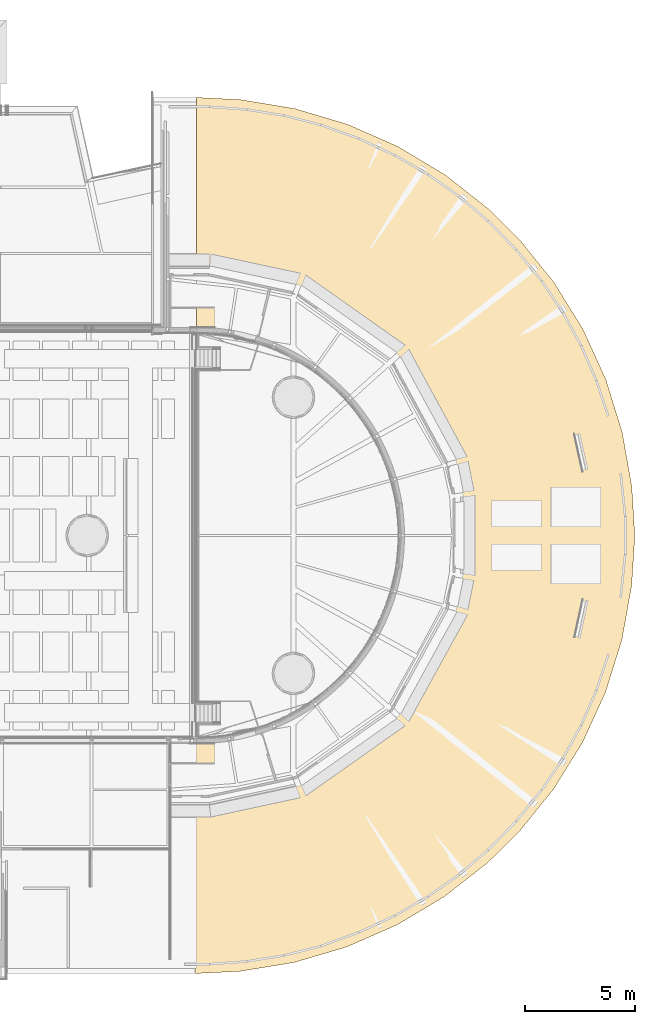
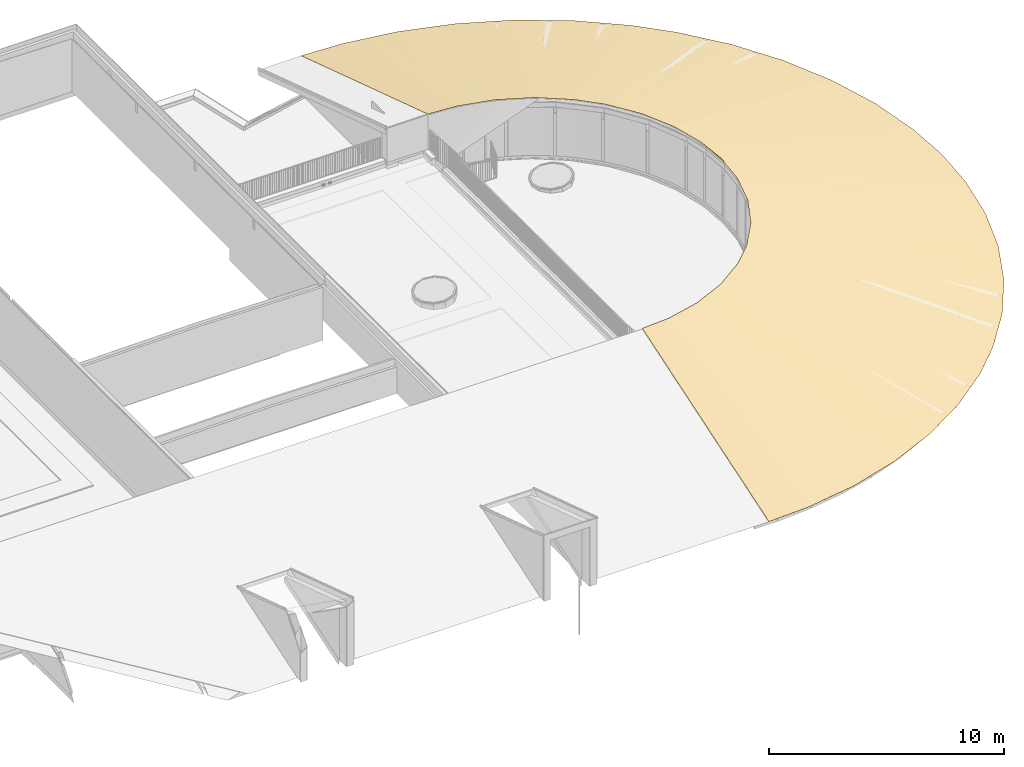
# One storey, part 65 of 66: 1 covering.
"""IFC2X3 building model written with IfcOpenShell, lengths in millimetres."""

from ifc_helpers import new_model, entity, si_unit, converted_unit, derived_unit, direction, frame, origin, place, context, subcontext, project, spatial, faceted_brep, material, layer, layer_set, layer_usage, type_object, element, save


model = new_model("IFC2X3")

# Units and contexts
model_context = context("Model", 3, precision=0.01, world=origin(), true_north=direction((6.12303176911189e-17, 1.0)))
body_context = subcontext(model_context, "Body", "Model", "MODEL_VIEW")
ifc_project = project(units=[si_unit("LENGTHUNIT", "METRE", prefix="MILLI"), si_unit("AREAUNIT", "SQUARE_METRE"), si_unit("VOLUMEUNIT", "CUBIC_METRE"), converted_unit("PLANEANGLEUNIT", "DEGREE", entity("IfcRatioMeasure", 0.0174532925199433), si_unit("PLANEANGLEUNIT", "RADIAN"), dimensions=[0, 0, 0, 0, 0, 0, 0]), si_unit("MASSUNIT", "GRAM", prefix="KILO"), derived_unit("MASSDENSITYUNIT", [(si_unit("MASSUNIT", "GRAM", prefix="KILO"), 1), (si_unit("LENGTHUNIT", "METRE"), -3)]), derived_unit("MOMENTOFINERTIAUNIT", [(si_unit("LENGTHUNIT", "METRE"), 4)]), si_unit("TIMEUNIT", "SECOND"), si_unit("FREQUENCYUNIT", "HERTZ"), si_unit("THERMODYNAMICTEMPERATUREUNIT", "DEGREE_CELSIUS"), derived_unit("THERMALTRANSMITTANCEUNIT", [(si_unit("MASSUNIT", "GRAM", prefix="KILO"), 1), (si_unit("THERMODYNAMICTEMPERATUREUNIT", "KELVIN"), -1), (si_unit("TIMEUNIT", "SECOND"), -3)]), derived_unit("VOLUMETRICFLOWRATEUNIT", [(si_unit("LENGTHUNIT", "METRE"), 3), (si_unit("TIMEUNIT", "SECOND"), -1)]), si_unit("ELECTRICCURRENTUNIT", "AMPERE"), si_unit("ELECTRICVOLTAGEUNIT", "VOLT"), si_unit("POWERUNIT", "WATT"), si_unit("FORCEUNIT", "NEWTON", prefix="KILO"), si_unit("ILLUMINANCEUNIT", "LUX"), si_unit("LUMINOUSFLUXUNIT", "LUMEN"), si_unit("LUMINOUSINTENSITYUNIT", "CANDELA"), derived_unit("USERDEFINED", [(si_unit("MASSUNIT", "GRAM", prefix="KILO"), -1), (si_unit("LENGTHUNIT", "METRE"), -2), (si_unit("TIMEUNIT", "SECOND"), 3), (si_unit("LUMINOUSFLUXUNIT", "LUMEN"), 1)]), derived_unit("LINEARVELOCITYUNIT", [(si_unit("LENGTHUNIT", "METRE"), 1), (si_unit("TIMEUNIT", "SECOND"), -1)]), si_unit("PRESSUREUNIT", "PASCAL"), derived_unit("USERDEFINED", [(si_unit("LENGTHUNIT", "METRE"), -2), (si_unit("MASSUNIT", "GRAM", prefix="KILO"), 1), (si_unit("TIMEUNIT", "SECOND"), -2)]), derived_unit("LINEARFORCEUNIT", [(si_unit("MASSUNIT", "GRAM", prefix="KILO"), 1), (si_unit("LENGTHUNIT", "METRE"), 1), (si_unit("TIMEUNIT", "SECOND"), -2), (si_unit("LENGTHUNIT", "METRE"), -1)]), derived_unit("PLANARFORCEUNIT", [(si_unit("MASSUNIT", "GRAM", prefix="KILO"), 1), (si_unit("LENGTHUNIT", "METRE"), 1), (si_unit("TIMEUNIT", "SECOND"), -2), (si_unit("LENGTHUNIT", "METRE"), -2)])], contexts=[model_context])

# Site, building, storey
site_placement = place(None, origin())
site = spatial("IfcSite", under=ifc_project, at=site_placement, Name="Default", CompositionType="ELEMENT")
building_placement = place(site_placement, origin())
building = spatial("IfcBuilding", under=site, at=building_placement, Name="-", CompositionType="ELEMENT")
storey_placement = place(building_placement, frame((0.0, 0.0, 3070.0)))
storey = spatial("IfcBuildingStorey", under=building, at=storey_placement, Name="01 eerste verdieping", CompositionType="ELEMENT", Elevation=3070.00000000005)

# Covering
ifc_material = material(Name="AL_Aluminium zwart")
ifc_layer = layer(ifc_material, 1.0)
ifc_layer_set = layer_set([ifc_layer], Name="Basic Roof:NLRS_47_Felsdak zink")
ifc_layer_usage = layer_usage(ifc_layer_set, "AXIS3", "NEGATIVE", 0.0)
covering_type = type_object("IfcCoveringType", Name="Basic Roof:NLRS_47_Felsdak zink", PredefinedType="NOTDEFINED")
covering_placement = place(storey_placement, frame((50601.744261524, -305.488649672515, 71.9973772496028)))
element("IfcCovering", 1, at=covering_placement, inside=storey, type_object=covering_type, material=ifc_layer_usage, Name="Basic Roof:NLRS_47_Felsdak zink", ObjectType="Basic Roof:NLRS_47_Felsdak zink", PredefinedType="NOTDEFINED", context=body_context, shape_type="Brep", body=[
    faceted_brep([(44.3025453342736, 39841.5483719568, 1.5952722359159), (44.3025453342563, 33858.2150343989, 1945.69812180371), (44.3025453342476, 29071.5483640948, 3500.98040066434), (44.3025453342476, 29071.5483640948, 3502.03186288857), (44.302545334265, 35054.8817019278, 1557.92901416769), (44.3025453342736, 39841.5483719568, 2.64673446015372), (1.59527223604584, 10771.6504687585, 3502.03186288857), (1.59527223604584, 10771.6504687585, 3500.98040066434), (1.59527223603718, 4788.28554465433, 1556.88040213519), (1.59527223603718, 1.59527223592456, 1.59527223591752), (1.59527223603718, 1.59527223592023, 2.64673446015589), (1.59527223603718, 5984.95826462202, 1946.7526789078), (719.228547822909, 29021.5288120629, 3502.03186288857), (286.334497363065, 29053.6110942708, 3502.03186288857), (286.334497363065, 29053.6110942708, 3500.98040066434), (719.228547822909, 29021.5288120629, 3500.98040066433), (1056.69154906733, 28996.519036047, 3500.98040066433), (1394.15455031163, 28971.509260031, 3500.98040066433), (1394.15455031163, 28971.509260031, 3502.03186288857), (1056.69154906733, 28996.519036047, 3502.03186288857), (3036.53708134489, 28568.6357110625, 3500.98040066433), (3036.53708134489, 28568.6357110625, 3502.03186288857), (2625.94144858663, 28669.3540983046, 3502.03186288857), (2215.34581582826, 28770.0724855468, 3502.03186288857), (1804.75018307, 28870.7908727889, 3502.03186288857), (1804.75018307, 28870.7908727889, 3500.98040066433), (2215.34581582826, 28770.0724855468, 3500.98040066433), (2625.94144858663, 28669.3540983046, 3500.98040066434), (9192.83117812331, 19730.8595740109, 3500.98040066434), (9129.11403441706, 19226.4649543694, 3502.03186288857), (9161.36779956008, 19648.0010285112, 3502.03186288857), (9193.6215647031, 20069.5371026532, 3502.03186288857), (3806.63395701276, 28219.5187238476, 3502.03186288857), (3421.58551917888, 28394.077217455, 3502.03186288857), (3421.58551917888, 28394.077217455, 3500.98040066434), (3806.63395701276, 28219.5187238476, 3500.98040066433), (4191.68239484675, 28044.9602302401, 3500.98040066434), (4576.73083268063, 27870.4017366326, 3500.98040066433), (4576.73083268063, 27870.4017366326, 3502.03186288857), (4191.68239484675, 28044.9602302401, 3502.03186288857), (6444.54848993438, 26426.0028306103, 3502.03186288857), (6203.33778218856, 26663.3299478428, 3502.03186288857), (5962.12707444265, 26900.6570650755, 3502.03186288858), (5962.12707444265, 26900.6570650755, 3500.98040066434), (6203.33778218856, 26663.3299478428, 3500.98040066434), (6444.54848993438, 26426.0028306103, 3500.98040066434), (6685.75919768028, 26188.6757133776, 3500.98040066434), (6926.96990542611, 25951.348596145, 3500.98040066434), (6926.96990542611, 25951.348596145, 3502.03186288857), (6685.75919768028, 26188.6757133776, 3502.03186288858), (8262.36738155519, 15987.1542861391, 3500.98040066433), (8079.80077356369, 15605.8376187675, 3500.98040066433), (7897.23416557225, 15224.520951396, 3500.98040066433), (7897.23416557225, 15224.520951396, 3502.03186288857), (8079.8007735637, 15605.8376187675, 3502.03186288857), (8262.36738155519, 15987.1542861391, 3502.03186288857), (8444.93398954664, 16368.4709535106, 3502.03186288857), (8627.50059753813, 16749.7876208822, 3502.03186288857), (8627.50059753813, 16749.7876208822, 3500.98040066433), (8444.93398954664, 16368.4709535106, 3500.98040066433), (6898.75107612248, 13859.6916599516, 3500.98040066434), (6898.75107612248, 13859.6916599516, 3502.03186288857), (7148.37184848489, 14200.8989828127, 3502.03186288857), (7397.99262084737, 14542.1063056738, 3502.03186288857), (7647.61339320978, 14883.3136285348, 3502.03186288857), (7647.61339320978, 14883.3136285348, 3500.98040066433), (7397.99262084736, 14542.1063056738, 3500.98040066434), (7148.37184848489, 14200.8989828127, 3500.98040066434), (1351.89950246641, 10865.3880999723, 3502.03186288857), (1351.89950246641, 10865.3880999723, 3500.98040066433), (1014.32344490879, 10841.9536921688, 3500.98040066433), (676.747387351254, 10818.5192843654, 3500.98040066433), (243.708309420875, 10788.4578682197, 3500.98040066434), (243.708309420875, 10788.4578682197, 3502.03186288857), (676.747387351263, 10818.5192843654, 3502.03186288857), (1014.32344490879, 10841.9536921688, 3502.03186288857), (8280.64150613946, 23817.5445161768, 3502.03186288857), (8099.85666790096, 24199.7091527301, 3502.03186288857), (7919.07182966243, 24581.8737892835, 3502.03186288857), (7919.07182966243, 24581.8737892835, 3500.98040066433), (8099.85666790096, 24199.7091527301, 3500.98040066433), (8280.64150613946, 23817.5445161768, 3500.98040066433), (8461.426344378, 23435.3798796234, 3500.98040066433), (8642.21118261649, 23053.2152430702, 3500.98040066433), (8642.21118261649, 23053.2152430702, 3502.03186288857), (8461.426344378, 23435.3798796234, 3502.03186288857), (7423.02086754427, 25266.6111927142, 3502.03186288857), (7174.99538648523, 25608.9798944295, 3502.03186288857), (7174.99538648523, 25608.9798944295, 3500.98040066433), (7423.02086754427, 25266.6111927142, 3500.98040066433), (7671.04634860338, 24924.2424909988, 3500.98040066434), (7671.04634860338, 24924.2424909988, 3502.03186288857), (8856.94936009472, 22235.4014599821, 3502.03186288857), (8749.58027135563, 22644.3083515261, 3502.03186288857), (8749.58027135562, 22644.3083515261, 3500.98040066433), (8856.94936009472, 22235.4014599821, 3500.98040066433), (8964.31844883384, 21826.494568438, 3500.98040066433), (9071.68753757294, 21417.5876768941, 3500.98040066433), (9071.68753757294, 21417.5876768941, 3502.03186288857), (8964.31844883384, 21826.494568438, 3502.03186288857), (5269.42895356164, 27385.5294008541, 3502.03186288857), (4923.07989312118, 27627.9655687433, 3502.03186288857), (4923.07989312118, 27627.9655687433, 3500.98040066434), (5269.42895356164, 27385.5294008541, 3500.98040066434), (5615.77801400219, 27143.0932329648, 3500.98040066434), (5615.77801400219, 27143.0932329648, 3502.03186288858), (8736.77707418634, 17158.188917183, 3502.03186288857), (8846.05355083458, 17566.5902134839, 3502.03186288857), (8955.3300274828, 17974.9915097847, 3502.03186288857), (9064.60650413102, 18383.3928060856, 3502.03186288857), (9064.60650413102, 18383.3928060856, 3500.98040066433), (8955.3300274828, 17974.9915097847, 3500.98040066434), (8846.05355083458, 17566.5902134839, 3500.98040066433), (8736.77707418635, 17158.188917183, 3500.98040066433), (2996.14454062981, 11260.5915022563, 3500.98040066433), (2996.14454062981, 11260.5915022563, 3502.03186288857), (3382.00352942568, 11433.350895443, 3502.03186288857), (3767.86251822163, 11606.1102886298, 3502.03186288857), (4153.7215070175, 11778.8696818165, 3502.03186288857), (4539.58049581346, 11951.6290750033, 3502.03186288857), (4539.58049581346, 11951.6290750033, 3500.98040066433), (4153.7215070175, 11778.8696818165, 3500.98040066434), (3767.86251822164, 11606.1102886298, 3500.98040066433), (3382.00352942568, 11433.350895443, 3500.98040066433), (9132.65455113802, 20743.5623897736, 3502.03186288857), (9102.17104435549, 21080.5750333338, 3502.03186288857), (9101.97344771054, 20995.9056511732, 3500.98040066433), (9132.25935784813, 20574.2236254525, 3500.98040066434), (9162.54526798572, 20152.5415997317, 3500.98040066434), (2174.02202154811, 11062.9898011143, 3500.98040066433), (1762.96076200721, 10964.1889505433, 3500.98040066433), (1762.96076200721, 10964.1889505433, 3502.03186288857), (2174.02202154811, 11062.9898011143, 3502.03186288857), (2585.08328108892, 11161.7906516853, 3502.03186288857), (2585.08328108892, 11161.7906516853, 3500.98040066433), (5929.48789348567, 12914.8968989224, 3500.98040066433), (5929.48789348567, 12914.8968989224, 3502.03186288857), (6171.80368914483, 13151.0955891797, 3502.03186288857), (6414.11948480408, 13387.294279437, 3502.03186288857), (6656.43528046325, 13623.4929696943, 3502.03186288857), (6656.43528046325, 13623.4929696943, 3500.98040066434), (6414.11948480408, 13387.294279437, 3500.98040066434), (6171.80368914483, 13151.0955891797, 3500.98040066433), (5234.53419464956, 12433.2629869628, 3500.98040066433), (4887.05734523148, 12192.446030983, 3500.98040066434), (4887.05734523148, 12192.446030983, 3502.03186288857), (5234.53419464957, 12433.2629869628, 3502.03186288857), (5582.01104406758, 12674.0799429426, 3502.03186288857), (5582.01104406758, 12674.0799429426, 3500.98040066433), (9160.77500962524, 19393.9928820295, 3500.98040066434), (9128.71884112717, 19057.1261900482, 3500.98040066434), (9096.66267262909, 18720.2594980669, 3500.98040066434), (9163.13805792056, 20406.5497462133, 3502.03186288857), (9096.86026927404, 18804.9288802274, 3502.03186288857), (1100.20767276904, 39788.4182691, 1.5952722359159), (2044.90308949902, 39740.8839183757, 1.5952722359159), (19393.8713898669, 15186.5142273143, 1.59527223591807), (19207.2074238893, 14589.1702065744, 1.59527223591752), (19020.5434579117, 13991.8261858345, 1.59527223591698), (3279.88064169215, 39537.2084244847, 1.5952722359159), (4514.85819388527, 39333.5329305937, 1.5952722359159), (1044.60281741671, 39791.2161451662, 1.59527223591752), (13287.0839893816, 5040.39243989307, 1.59527223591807), (12794.3427088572, 4654.55653464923, 1.59527223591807), (12301.6014283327, 4268.72062940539, 1.59527223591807), (5714.5389241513, 38976.5743802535, 1.59527223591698), (17626.8944555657, 29285.1481988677, 1.59527223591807), (18144.6707665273, 28145.6040123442, 1.59527223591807), (12335.1319745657, 35548.0623529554, 1.59527223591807), (13318.9578530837, 34774.279500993, 1.59527223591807), (11351.3060960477, 36321.8452049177, 1.59527223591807), (10278.2006806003, 36966.1262216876, 1.59527223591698), (14743.5272071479, 33366.0401658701, 1.59527223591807), (9167.15036989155, 2213.09109292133, 1.59527223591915), (16288.993200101, 8391.8829420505, 1.5952722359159), (16947.8861282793, 9456.07905669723, 1.59527223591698), (18662.447077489, 27006.0598258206, 1.59527223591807), (16970.284613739, 30350.7544942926, 1.59527223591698), (19614.4131925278, 16418.5915684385, 1.59527223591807), (9205.09526515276, 37610.4072384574, 1.5952722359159), (18847.8299450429, 26408.3169816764, 1.59527223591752), (19033.2128125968, 25810.5741375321, 1.59527223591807), (19621.8783442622, 23382.5411114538, 1.59527223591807), (15895.4122124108, 7905.30579355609, 1.59527223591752), (15501.8312247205, 7418.72864506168, 1.59527223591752), (6914.21965441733, 38619.6158299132, 1.59527223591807), (8059.65745978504, 38115.0115341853, 1.59527223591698), (14000.8766193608, 5742.98339398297, 1.59527223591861), (7486.93855710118, 38367.3136820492, 1.59527223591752), (14714.6692493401, 6445.57434807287, 1.59527223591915), (16313.6747719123, 31416.3607897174, 1.5952722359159), (11843.2190353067, 35934.9537789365, 1.59527223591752), (19403.9785477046, 24615.0884492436, 1.59527223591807), (15528.6009895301, 32391.2004777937, 1.59527223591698), (19898.959217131, 18650.1875071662, 1.59527223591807), (19962.9634390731, 19649.7061047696, 1.59527223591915), (6874.11634200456, 1208.79631951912, 1.59527223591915), (6273.89470668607, 1031.60347597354, 1.59527223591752), (5673.67307136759, 854.410632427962, 1.59527223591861), (17606.7790564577, 10520.275171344, 1.59527223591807), (18126.9972912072, 11658.7066578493, 1.59527223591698), (18647.2155259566, 12797.1381443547, 1.5952722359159), (1057.61188067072, 52.4614563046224, 1.59527223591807), (1002.00115463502, 49.7828001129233, 1.59527223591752), (11316.1188672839, 3497.04881891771, 1.59527223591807), (3237.81841888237, 298.997636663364, 1.59527223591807), (2002.40703703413, 97.9703279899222, 1.59527223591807), (8020.63335594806, 1710.94370622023, 1.59527223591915), (10241.6346185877, 2855.06995591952, 1.59527223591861), (19839.7781408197, 22149.9937736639, 1.59527223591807), (19901.3707899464, 20899.8499392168, 1.59527223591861), (4473.22980073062, 500.024945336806, 1.59527223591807), (19834.9549951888, 17650.6689095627, 1.59527223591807), (16641.9796928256, 30883.557642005, 1.59527223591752), (3855.52410980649, 399.511291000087, 1.59527223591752), (14031.2425301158, 34070.1598334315, 1.59527223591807), (5114.69855901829, 39155.0536554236, 1.59527223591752), (1100.20767276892, 39788.4182691, 2.64673446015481), (17626.8944555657, 29285.1481988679, 2.64673446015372), (19020.5434579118, 13991.8261858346, 2.64673446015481), (2044.90308949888, 39740.8839183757, 2.64673446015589), (5714.53892415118, 38976.5743802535, 2.64673446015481), (6914.21965441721, 38619.6158299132, 2.64673446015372), (9205.09526515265, 37610.4072384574, 2.64673446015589), (19033.2128125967, 25810.5741375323, 2.64673446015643), (18662.4470774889, 27006.0598258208, 2.64673446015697), (8059.65745978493, 38115.0115341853, 2.64673446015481), (14743.5272071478, 33366.0401658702, 2.64673446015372), (9167.15036989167, 2213.09109292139, 2.64673446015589), (15528.60098953, 32391.2004777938, 2.64673446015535), (16970.2846137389, 30350.7544942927, 2.64673446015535), (4514.85819388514, 39333.5329305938, 2.64673446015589), (3897.36941778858, 39435.3706775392, 2.64673446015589), (3279.88064169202, 39537.2084244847, 2.64673446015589), (19621.8783442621, 23382.5411114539, 2.64673446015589), (18403.5589220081, 27575.8319190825, 2.64673446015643), (18144.6707665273, 28145.6040123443, 2.64673446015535), (15501.8312247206, 7418.72864506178, 2.64673446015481), (16288.9932001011, 8391.8829420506, 2.64673446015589), (13318.9578530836, 34774.2795009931, 2.64673446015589), (12335.1319745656, 35548.0623529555, 2.64673446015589), (19963.5004757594, 20150.6867303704, 2.64673446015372), (5673.67307136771, 854.410632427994, 2.64673446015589), (11351.3060960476, 36321.8452049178, 2.64673446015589), (14000.8766193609, 5742.98339398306, 2.64673446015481), (14031.2425301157, 34070.1598334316, 2.64673446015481), (16313.6747719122, 31416.3607897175, 2.64673446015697), (15921.1378807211, 31903.7806337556, 2.64673446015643), (19403.9785477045, 24615.0884492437, 2.64673446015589), (8020.63335594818, 1710.94370622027, 2.64673446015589), (19393.8713898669, 15186.5142273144, 2.64673446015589), (16618.4396641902, 8923.98099937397, 2.64673446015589), (16947.8861282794, 9456.07905669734, 2.64673446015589), (14714.6692493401, 6445.57434807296, 2.64673446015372), (11316.1188672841, 3497.04881891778, 2.64673446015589), (12301.6014283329, 4268.72062940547, 2.64673446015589), (19901.6393082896, 21150.3402520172, 2.64673446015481), (1057.61188067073, 52.4614563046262, 2.64673446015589), (13287.0839893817, 5040.39243989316, 2.64673446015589), (19834.9549951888, 17650.6689095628, 2.64673446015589), (19899.2277354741, 18900.6778199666, 2.64673446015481), (17606.7790564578, 10520.2751713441, 2.64673446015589), (10241.6346185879, 2855.06995591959, 2.64673446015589), (18647.2155259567, 12797.1381443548, 2.64673446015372), (18126.9972912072, 11658.7066578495, 2.64673446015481), (3237.81841888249, 298.997636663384, 2.64673446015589), (2002.40703703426, 97.9703279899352, 2.64673446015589), (6874.11634200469, 1208.79631951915, 2.64673446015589), (7447.37484897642, 1459.87001286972, 2.64673446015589), (4473.22980073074, 500.024945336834, 2.64673446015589), (19504.1422911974, 15802.5528978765, 2.64673446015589), (19614.4131925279, 16418.5915684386, 2.64673446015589), (1274.25951412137, 39779.6604820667, 2.64673446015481), (19839.7781408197, 22149.9937736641, 2.64673446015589), (10814.7533883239, 36643.9857133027, 2.64673446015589), (10278.2006806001, 36966.1262216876, 2.64673446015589), (9704.39249423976, 2534.08052442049, 2.64673446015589), (17866.8881738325, 11089.4909145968, 2.64673446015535), (1231.68209817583, 60.8460665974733, 2.64673446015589), (19730.8282425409, 22766.267442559, 2.64673446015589)], [[[0, 1, 2, 3, 4, 5]], [[6, 7, 8, 9, 10, 11]], [[12, 13, 3, 2, 14, 15, 16, 17, 18, 19]], [[20, 21, 22, 23, 24, 18, 17, 25, 26, 27]], [[28, 29, 30, 31]], [[32, 33, 21, 20, 34, 35, 36, 37, 38, 39]], [[40, 41, 42, 43, 44, 45, 46, 47, 48, 49]], [[50, 51, 52, 53, 54, 55, 56, 57, 58, 59]], [[60, 61, 62, 63, 64, 53, 52, 65, 66, 67]], [[68, 69, 70, 71, 72, 7, 6, 73, 74, 75]], [[76, 77, 78, 79, 80, 81, 82, 83, 84, 85]], [[86, 87, 48, 47, 88, 89, 90, 79, 78, 91]], [[92, 93, 84, 83, 94, 95, 96, 97, 98, 99]], [[100, 101, 38, 37, 102, 103, 104, 43, 42, 105]], [[58, 57, 106, 107, 108, 109, 110, 111, 112, 113]], [[114, 115, 116, 117, 118, 119, 120, 121, 122, 123]], [[97, 124, 125, 98]], [[124, 97, 126, 127]], [[31, 127, 128, 28]], [[129, 130, 69, 68, 131, 132, 133, 115, 114, 134]], [[135, 136, 137, 138, 139, 61, 60, 140, 141, 142]], [[143, 144, 120, 119, 145, 146, 147, 136, 135, 148]], [[29, 28, 149, 150]], [[109, 150, 151, 110]], [[127, 31, 152, 124]], [[150, 109, 153, 29]], [[154, 14, 1]], [[16, 15, 155, 17]], [[112, 156, 157, 158]], [[159, 160, 25]], [[14, 2, 1]], [[1, 0, 161, 154]], [[162, 163, 164, 135]], [[25, 160, 26]], [[27, 26, 165, 20]], [[81, 166, 167]], [[168, 169, 43]], [[154, 15, 14]], [[170, 102, 171]], [[46, 172, 47]], [[121, 120, 173]], [[174, 65, 175]], [[176, 82, 167]], [[79, 90, 177]], [[156, 111, 178]], [[179, 171, 37]], [[83, 176, 180, 181]], [[96, 182, 97]], [[66, 174, 183, 184]], [[185, 20, 165]], [[34, 186, 35]], [[140, 187, 142, 141]], [[34, 185, 188, 186]], [[104, 168, 43]], [[187, 140, 189]], [[155, 15, 154]], [[37, 171, 102]], [[177, 166, 79]], [[90, 89, 190]], [[81, 167, 82]], [[104, 170, 191, 168]], [[182, 96, 192]], [[94, 83, 181, 95]], [[166, 81, 80, 79]], [[170, 104, 103, 102]], [[193, 47, 172]], [[194, 28, 195]], [[195, 28, 128]], [[114, 196, 197, 198]], [[199, 52, 51, 50]], [[176, 83, 82]], [[67, 66, 184, 60]], [[200, 59, 201]], [[8, 202, 203, 9]], [[200, 199, 50]], [[134, 114, 198, 129]], [[143, 148, 204, 144]], [[113, 112, 158, 58]], [[151, 178, 110]], [[187, 162, 142]], [[181, 192, 95]], [[205, 69, 130]], [[164, 148, 135]], [[174, 66, 65]], [[70, 69, 206, 71]], [[196, 123, 207]], [[44, 43, 169]], [[122, 121, 207, 123]], [[120, 144, 208]], [[156, 112, 111]], [[88, 47, 193, 89]], [[8, 7, 72]], [[209, 210, 127]], [[58, 201, 59]], [[189, 60, 184]], [[8, 72, 202]], [[110, 178, 111]], [[158, 201, 58]], [[25, 17, 159]], [[52, 175, 65]], [[198, 211, 129]], [[129, 211, 130]], [[71, 202, 72]], [[148, 164, 204]], [[36, 35, 179, 37]], [[193, 190, 89]], [[52, 199, 175]], [[178, 151, 212]], [[149, 28, 194, 150]], [[159, 17, 155]], [[90, 190, 213, 177]], [[96, 95, 192]], [[186, 179, 35]], [[34, 20, 185]], [[128, 210, 195]], [[126, 97, 209, 127]], [[59, 200, 50]], [[151, 150, 212]], [[69, 205, 206]], [[130, 211, 214, 205]], [[121, 173, 207]], [[196, 114, 123]], [[208, 173, 120]], [[208, 144, 204]], [[182, 209, 97]], [[202, 71, 206]], [[45, 44, 215, 46]], [[140, 60, 189]], [[26, 160, 216, 165]], [[142, 162, 135]], [[212, 150, 194]], [[128, 127, 210]], [[172, 46, 215]], [[215, 44, 169]], [[4, 217, 5]], [[77, 76, 218, 78]], [[219, 107, 106, 57]], [[220, 12, 19, 18]], [[217, 13, 12]], [[221, 23, 22, 21]], [[222, 21, 33]], [[39, 38, 223, 32]], [[84, 224, 225]], [[32, 223, 226]], [[227, 49, 48]], [[228, 119, 118]], [[86, 229, 48, 87]], [[78, 230, 91]], [[24, 231, 232, 233]], [[98, 234, 99]], [[85, 225, 235, 236]], [[63, 237, 238]], [[42, 239, 240]], [[24, 233, 18]], [[152, 31, 241]], [[242, 115, 133, 132]], [[221, 21, 222]], [[73, 6, 11]], [[101, 100, 105, 243]], [[42, 240, 105]], [[138, 137, 244, 139]], [[33, 226, 222]], [[245, 49, 227]], [[86, 246, 247, 229]], [[246, 86, 91]], [[4, 13, 217]], [[248, 224, 92]], [[85, 236, 76]], [[249, 118, 117, 116]], [[250, 107, 219]], [[234, 248, 99]], [[64, 238, 251, 252]], [[253, 139, 244]], [[254, 255, 147]], [[256, 124, 152]], [[234, 98, 125]], [[237, 63, 62, 61]], [[257, 73, 11]], [[239, 42, 41]], [[137, 258, 244]], [[29, 259, 260]], [[78, 218, 230]], [[261, 55, 54, 53]], [[262, 145, 119]], [[263, 56, 264]], [[131, 68, 265]], [[24, 23, 231]], [[266, 68, 75, 74]], [[11, 10, 257]], [[18, 233, 220]], [[255, 258, 136]], [[85, 84, 225]], [[116, 267, 268, 249]], [[227, 48, 229]], [[269, 132, 131]], [[73, 257, 74]], [[219, 57, 263]], [[56, 263, 57]], [[267, 115, 242]], [[241, 30, 260]], [[259, 29, 153]], [[243, 105, 240]], [[248, 92, 99]], [[108, 250, 270, 271]], [[64, 252, 53]], [[136, 258, 137]], [[132, 269, 242]], [[255, 136, 147]], [[12, 220, 272, 217]], [[224, 84, 93, 92]], [[147, 146, 145, 254]], [[4, 3, 13]], [[125, 124, 273]], [[253, 237, 61]], [[246, 91, 230]], [[236, 218, 76]], [[109, 271, 153]], [[101, 243, 274, 275]], [[32, 226, 33]], [[275, 223, 38]], [[252, 261, 53]], [[64, 63, 238]], [[119, 228, 276, 262]], [[254, 145, 262]], [[55, 261, 277, 264]], [[266, 265, 68]], [[55, 264, 56]], [[269, 131, 265]], [[249, 228, 118]], [[116, 115, 267]], [[108, 271, 109]], [[153, 271, 259]], [[108, 107, 250]], [[74, 257, 278, 266]], [[245, 41, 40, 49]], [[253, 61, 139]], [[23, 221, 231]], [[125, 273, 279, 234]], [[124, 256, 273]], [[275, 38, 101]], [[30, 241, 31]], [[30, 29, 260]], [[239, 41, 245]], [[152, 241, 256]], [[278, 257, 10, 9, 203, 202, 206, 266]], [[221, 222, 185, 165, 216, 160, 231]], [[172, 227, 229, 247, 246, 190, 193]], [[269, 265, 266, 206, 205, 214, 211]], [[196, 207, 173, 228, 249, 268, 267]], [[230, 218, 166, 177, 213, 190, 246]], [[166, 218, 236, 235, 225, 176, 167]], [[267, 242, 269, 211, 198, 197, 196]], [[225, 224, 248, 192, 181, 180, 176]], [[173, 208, 204, 254, 262, 276, 228]], [[162, 187, 189, 253, 244, 258]], [[175, 199, 261, 252, 251, 238, 174]], [[219, 263, 201, 158, 157, 156, 250]], [[238, 237, 253, 189, 184, 183, 174]], [[199, 200, 201, 263, 264, 277, 261]], [[258, 255, 254, 204, 164, 163, 162]], [[270, 250, 156, 178, 212, 259, 271]], [[182, 192, 248, 234, 279, 273, 209]], [[259, 194, 260]], [[240, 239, 169, 168, 191, 170, 243]], [[155, 220, 233, 232, 231, 160, 159]], [[275, 274, 243, 170, 171, 179, 223]], [[222, 226, 223, 179, 186, 188, 185]], [[169, 239, 245, 227, 172, 215]], [[5, 217, 272, 220, 155, 154, 161, 0]], [[241, 210, 256]], [[209, 273, 256]], [[195, 241, 260]], [[241, 195, 210]], [[209, 256, 210]], [[194, 259, 212]], [[194, 195, 260]]]),
])

save(model, "model.ifc")
